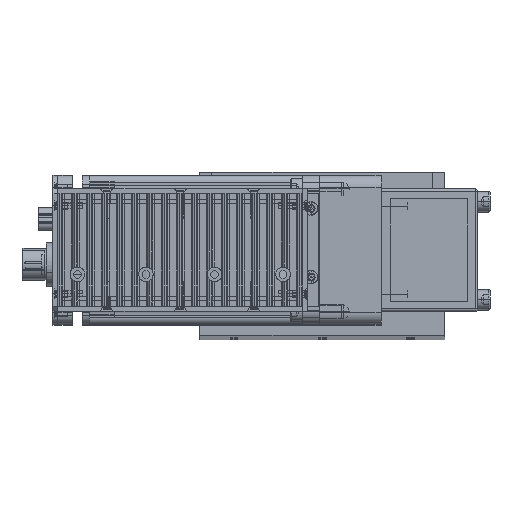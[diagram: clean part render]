
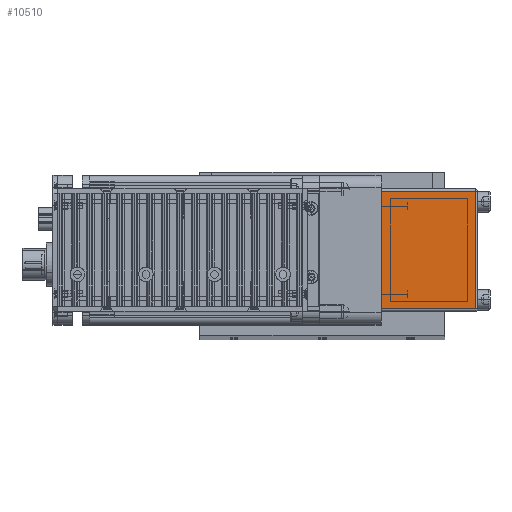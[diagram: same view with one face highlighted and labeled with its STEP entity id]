
A CAD part, top view. The second image highlights one B-rep face of the part: STEP entity #10510.
In plain terms, the highlighted planar face has unit normal (0, 0, 1) as drawn and (1, 0, 0) by its records, which use the part's own axes.
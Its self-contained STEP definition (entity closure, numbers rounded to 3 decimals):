
#10222 = VERTEX_POINT ( 'NONE', #31015 ) ;
#10287 = VERTEX_POINT ( 'NONE', #31056 ) ;
#10294 = VERTEX_POINT ( 'NONE', #31112 ) ;
#10299 = EDGE_CURVE ( 'NONE', #10294, #10287, #31110, .T. ) ;
#10309 = VERTEX_POINT ( 'NONE', #31096 ) ;
#10318 = EDGE_CURVE ( 'NONE', #10309, #10222, #31137, .T. ) ;
#10399 = ORIENTED_EDGE ( 'NONE', *, *, #10299, .F. ) ;
#10425 = EDGE_LOOP ( 'NONE', ( #10399, #10512, #10524, #10515 ) ) ;
#10505 = EDGE_CURVE ( 'NONE', #10287, #10309, #31318, .T. ) ;
#10508 = EDGE_CURVE ( 'NONE', #10294, #10222, #31360, .T. ) ;
#10510 = ADVANCED_FACE ( 'NONE', ( #31315 ), #31322, .F. ) ;
#10512 = ORIENTED_EDGE ( 'NONE', *, *, #10508, .T. ) ;
#10515 = ORIENTED_EDGE ( 'NONE', *, *, #10505, .F. ) ;
#10524 = ORIENTED_EDGE ( 'NONE', *, *, #10318, .F. ) ;
#31015 = CARTESIAN_POINT ( 'NONE',  ( 62., 24., 0. ) ) ;
#31056 = CARTESIAN_POINT ( 'NONE',  ( 62., -24., 38.5 ) ) ;
#31096 = CARTESIAN_POINT ( 'NONE',  ( 62., 24., 38.5 ) ) ;
#31097 = DIRECTION ( 'NONE',  ( 0., 0., 1. ) ) ;
#31098 = VECTOR ( 'NONE', #31097, 1000. ) ;
#31099 = CARTESIAN_POINT ( 'NONE',  ( 62., -24., 39.5 ) ) ;
#31110 = LINE ( 'NONE', #31099, #31098 ) ;
#31112 = CARTESIAN_POINT ( 'NONE',  ( 62., -24., 0. ) ) ;
#31133 = DIRECTION ( 'NONE',  ( 0., 0., -1. ) ) ;
#31134 = VECTOR ( 'NONE', #31133, 1000. ) ;
#31137 = LINE ( 'NONE', #31138, #31134 ) ;
#31138 = CARTESIAN_POINT ( 'NONE',  ( 62., 24., 39.5 ) ) ;
#31292 = CARTESIAN_POINT ( 'NONE',  ( 62., 25., 39.5 ) ) ;
#31315 = FACE_OUTER_BOUND ( 'NONE', #10425, .T. ) ;
#31316 = DIRECTION ( 'NONE',  ( 0., 1., 0. ) ) ;
#31317 = CARTESIAN_POINT ( 'NONE',  ( 62., -25., 38.5 ) ) ;
#31318 = LINE ( 'NONE', #31317, #31361 ) ;
#31319 = DIRECTION ( 'NONE',  ( -1., 0., 0. ) ) ;
#31322 = PLANE ( 'NONE',  #31356 ) ;
#31350 = DIRECTION ( 'NONE',  ( 0., -1., 0. ) ) ;
#31356 = AXIS2_PLACEMENT_3D ( 'NONE', #31292, #31319, #31350 ) ;
#31357 = DIRECTION ( 'NONE',  ( 0., 1., 0. ) ) ;
#31358 = VECTOR ( 'NONE', #31357, 1000. ) ;
#31359 = CARTESIAN_POINT ( 'NONE',  ( 62., -25., 0. ) ) ;
#31360 = LINE ( 'NONE', #31359, #31358 ) ;
#31361 = VECTOR ( 'NONE', #31316, 1000. ) ;
